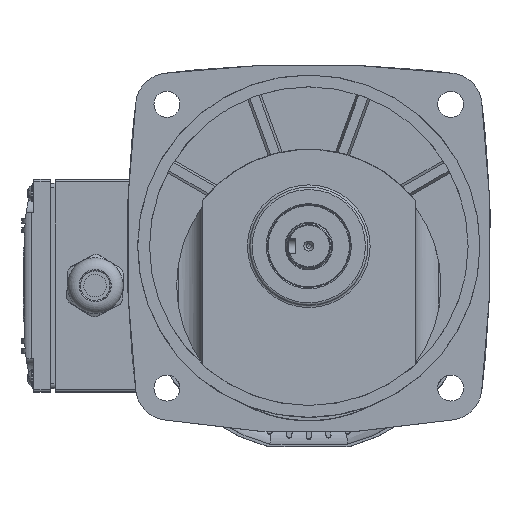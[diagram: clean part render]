
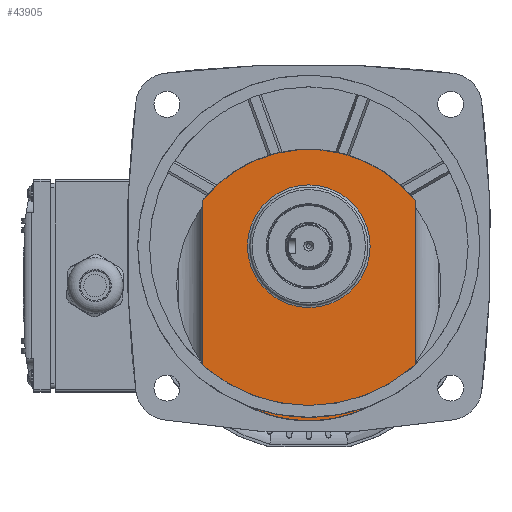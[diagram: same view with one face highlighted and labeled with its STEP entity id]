
A CAD part, top view. The second image highlights one B-rep face of the part: STEP entity #43905.
In plain terms, the highlighted planar face has unit normal (0, 0, 1).
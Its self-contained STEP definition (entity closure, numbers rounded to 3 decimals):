
#865=FACE_BOUND('',#7130,.T.);
#1720=PLANE('',#48458);
#4491=FACE_OUTER_BOUND('',#7129,.T.);
#7129=EDGE_LOOP('',(#37857,#37858,#37859,#37860,#37861,#37862));
#7130=EDGE_LOOP('',(#37863));
#9709=CIRCLE('',#48293,57.5);
#9776=CIRCLE('',#48450,57.5);
#9781=CIRCLE('',#48459,26.);
#12177=LINE('',#89470,#14687);
#12183=LINE('',#89480,#14693);
#12185=LINE('',#89527,#14695);
#12190=LINE('',#89541,#14700);
#14687=VECTOR('',#59439,69.606);
#14693=VECTOR('',#59447,69.606);
#14695=VECTOR('',#59461,1.983);
#14700=VECTOR('',#59476,1.983);
#19558=VERTEX_POINT('',#88999);
#19559=VERTEX_POINT('',#89003);
#19689=VERTEX_POINT('',#89469);
#19692=VERTEX_POINT('',#89478);
#19695=VERTEX_POINT('',#89526);
#19698=VERTEX_POINT('',#89534);
#19703=VERTEX_POINT('',#89553);
#25614=EDGE_CURVE('',#19558,#19559,#9709,.T.);
#25827=EDGE_CURVE('',#19689,#19559,#12177,.T.);
#25833=EDGE_CURVE('',#19558,#19692,#12183,.T.);
#25838=EDGE_CURVE('',#19692,#19695,#12185,.T.);
#25842=EDGE_CURVE('',#19698,#19695,#9776,.T.);
#25846=EDGE_CURVE('',#19698,#19689,#12190,.T.);
#25852=EDGE_CURVE('',#19703,#19703,#9781,.T.);
#37857=ORIENTED_EDGE('',*,*,#25833,.T.);
#37858=ORIENTED_EDGE('',*,*,#25838,.T.);
#37859=ORIENTED_EDGE('',*,*,#25842,.F.);
#37860=ORIENTED_EDGE('',*,*,#25846,.T.);
#37861=ORIENTED_EDGE('',*,*,#25827,.T.);
#37862=ORIENTED_EDGE('',*,*,#25614,.F.);
#37863=ORIENTED_EDGE('',*,*,#25852,.F.);
#43905=ADVANCED_FACE('',(#4491,#865),#1720,.F.);
#48293=AXIS2_PLACEMENT_3D('',#89004,#58997,#58998);
#48450=AXIS2_PLACEMENT_3D('',#89535,#59467,#59468);
#48458=AXIS2_PLACEMENT_3D('',#89552,#59488,#59489);
#48459=AXIS2_PLACEMENT_3D('',#89554,#59490,#59491);
#58997=DIRECTION('center_axis',(0.,0.,-1.));
#58998=DIRECTION('ref_axis',(-1.,0.,0.));
#59439=DIRECTION('',(0.,1.,0.));
#59447=DIRECTION('',(0.,-1.,0.));
#59461=DIRECTION('',(0.,-1.,0.));
#59467=DIRECTION('center_axis',(0.,0.,-1.));
#59468=DIRECTION('ref_axis',(-1.,0.,0.));
#59476=DIRECTION('',(0.,1.,0.));
#59488=DIRECTION('center_axis',(0.,0.,-1.));
#59489=DIRECTION('ref_axis',(-1.,0.,0.));
#59490=DIRECTION('center_axis',(0.,0.,1.));
#59491=DIRECTION('ref_axis',(-1.,0.,0.));
#88999=CARTESIAN_POINT('',(-57.81,31.208,25.75));
#89003=CARTESIAN_POINT('',(32.19,31.208,25.75));
#89004=CARTESIAN_POINT('Origin',(-12.81,-4.587,25.75));
#89469=CARTESIAN_POINT('',(32.19,-38.398,25.75));
#89470=CARTESIAN_POINT('',(32.19,-38.398,25.75));
#89478=CARTESIAN_POINT('',(-57.81,-38.398,25.75));
#89480=CARTESIAN_POINT('',(-57.81,31.208,25.75));
#89526=CARTESIAN_POINT('',(-57.81,-40.381,25.75));
#89527=CARTESIAN_POINT('',(-57.81,-38.398,25.75));
#89534=CARTESIAN_POINT('',(32.19,-40.381,25.75));
#89535=CARTESIAN_POINT('Origin',(-12.81,-4.587,25.75));
#89541=CARTESIAN_POINT('',(32.19,-40.381,25.75));
#89552=CARTESIAN_POINT('Origin',(-12.81,-4.587,25.75));
#89553=CARTESIAN_POINT('',(13.19,11.913,25.75));
#89554=CARTESIAN_POINT('Origin',(-12.81,11.913,25.75));
